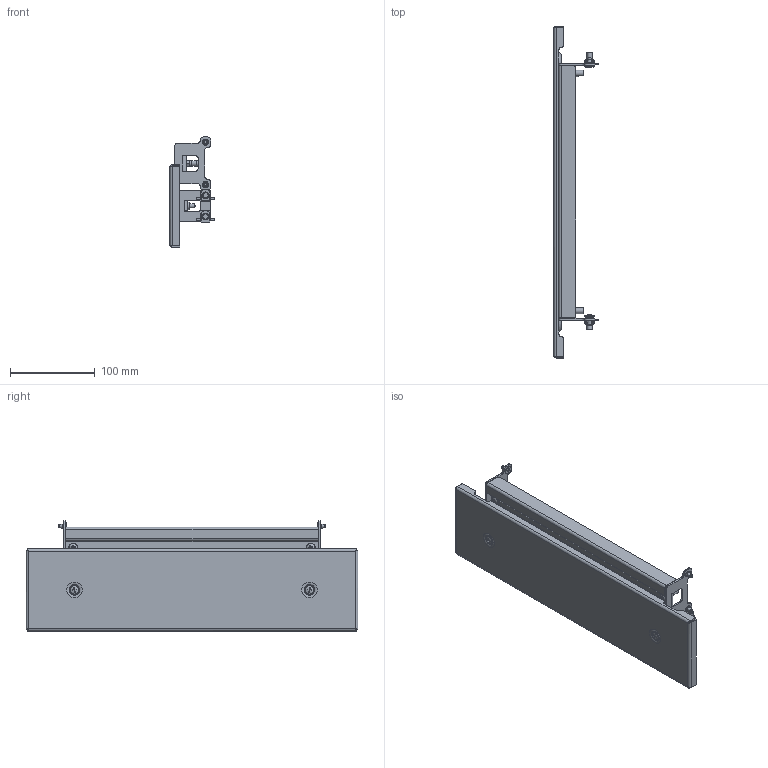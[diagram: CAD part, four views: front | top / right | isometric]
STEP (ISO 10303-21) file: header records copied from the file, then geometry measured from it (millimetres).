
FILE_DESCRIPTION(('STEP AP203'), '1');
FILE_NAME('3630 Ñåêöèîííàÿ ïàíåëü íà âèíòàõ (äëÿ çàêðûòèÿ ñåêöèè) ÑÁ', '', ('UNSPECIFIED'), ('UNSPECIFIED'), 'C3D Converter', 'C3D Toolkit', '');
FILE_SCHEMA(('CONFIG_CONTROL_DESIGN'));
Length unit declared in the file: millimetre
Products named in the file (19): 3630.10.40; 3631.10.40; 3632.10.40; 3600.40; 3601.40; 3624; 3625; 203-0655.61;  202-1103.15-00530; 3604-01; 3654-01; 2957
Assembly tree (33 placements, depth 4):
  3630.10.40
    3631.10.40
      3632.10.40
      (unnamed)
    3600.40
      3601.40
      3624  x2
        3625
        (unnamed)
      (unnamed)  x2
      (unnamed)  x2
      (unnamed)  x4
    203-0655.61  x2
     202-1103.15-00530  x2
    3604-01  x2
      3654-01
      (unnamed)
    (unnamed)  x4
    2957  x4
Bounding box: 53.78 x 391 x 129.7 mm (x, y, z)
Volume: 205961 mm3; surface area: 218357.1 mm2
Topology: 40 solids, 40 shells, 1400 faces, 3518 edges, 2222 vertices
Faces by surface type: plane 803, cylinder 449, cone 49, sphere 38, bspline 32, torus 29
Full cylindrical faces by diameter (mm): 4 x2, 4.134 x4, 4.917 x4, 5 x8, 5.2 x4, 5.3 x2, 5.5 x4, 5.6 x4, 5.8 x2, 6 x5, 6.38 x2, 6.4 x2, 6.5 x2, 6.8 x2, 7 x4, 7.5 x8, 7.74 x2, 8.7 x2, 9.2 x4, 9.5 x2, 10 x2, 11.3 x4, 11.5 x2
Entity records: 24172 total; most frequent: CARTESIAN_POINT 7259, DIRECTION 3051, ORIENTED_EDGE 2732, EDGE_CURVE 1366, AXIS2_PLACEMENT_3D 1115, VERTEX_POINT 879, LINE 821, VECTOR 821
